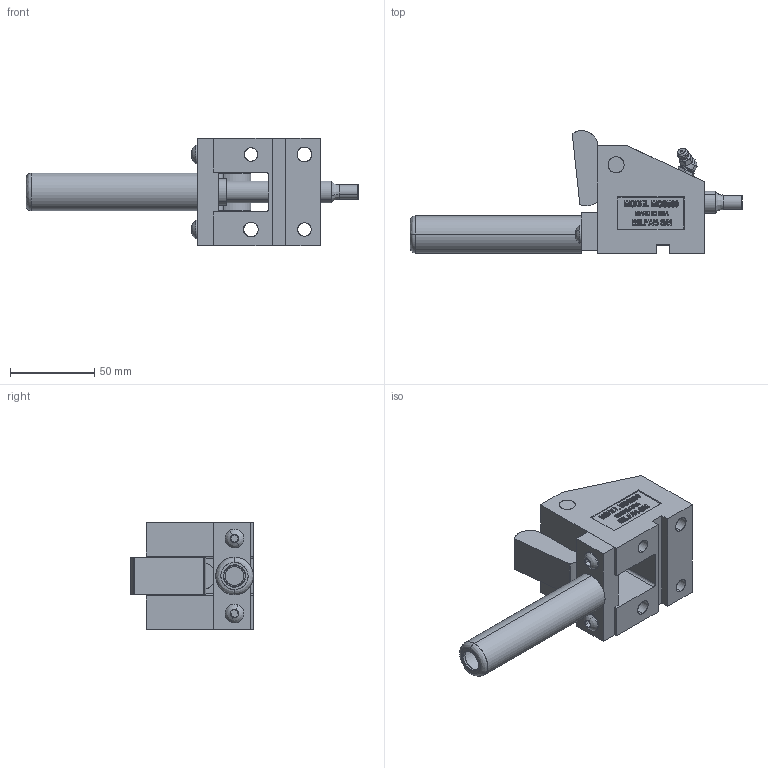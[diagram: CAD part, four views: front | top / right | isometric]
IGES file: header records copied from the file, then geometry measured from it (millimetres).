
Start section: SolidWorks IGES file using analytic representation for surfaces
Global section: file name: Y:\JIM SOLIDWORKS\ENGDESIGN-W-SOLIDWORKS\PROJECTS\MOS500-O\MOS500-O.IGS; native system: SolidWorks 2006 by SolidWorks Corporation; preprocessor: SolidWorks 2006 by SolidWorks Corporation; author: Jim; date: 081226.152345; units: inch
Bounding box: 196.72 x 72.57 x 63.5 mm (x, y, z)
Surface area: 65610.9 mm2 (no closed solid volume)
Topology: 0 solids, 0 shells, 592 faces, 7739 edges, 7737 vertices
Faces by surface type: bspline 473, revolution 119
